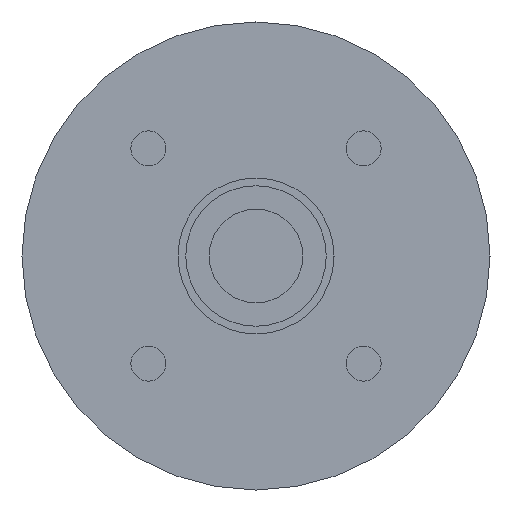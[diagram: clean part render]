
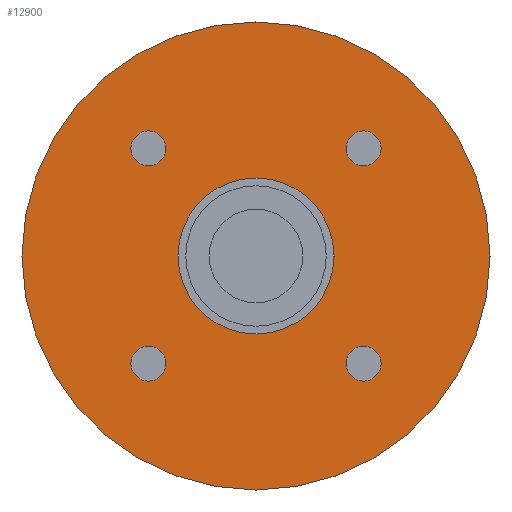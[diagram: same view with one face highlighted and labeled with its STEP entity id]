
A CAD part, left-side view. The second image highlights one B-rep face of the part: STEP entity #12900.
In plain terms, the highlighted planar face has unit normal (-1, 0, 0) as drawn and (0, 0, -1) by its records, which use the part's own axes.
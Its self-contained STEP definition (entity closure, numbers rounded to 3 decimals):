
#8680=CARTESIAN_POINT('',(-30.,0.,-35.));
#8690=VERTEX_POINT('',#8680);
#8910=CARTESIAN_POINT('',(30.,0.,-35.));
#8920=VERTEX_POINT('',#8910);
#8950=CARTESIAN_POINT('',(0.,0.,-35.
));
#8960=DIRECTION('',(0.,0.,1.));
#8970=DIRECTION('',(1.,0.,0.));
#8980=AXIS2_PLACEMENT_3D('',#8950,#8960,#8970);
#8990=CIRCLE('',#8980,30.);
#9000=CARTESIAN_POINT('',(0.,-30.,-35.));
#9010=VERTEX_POINT('',#9000);
#9020=EDGE_CURVE('',#9010,#8920,#8990,.T.);
#9040=EDGE_CURVE('',#8690,#9010,#8990,.T.);
#9200=CARTESIAN_POINT('',(0.,10.,-35.));
#9210=VERTEX_POINT('',#9200);
#9240=CARTESIAN_POINT('',(0.,0.,
-35.));
#9250=DIRECTION('',(0.,0.,1.));
#9260=DIRECTION('',(0.,1.,0.));
#9270=AXIS2_PLACEMENT_3D('',#9240,#9250,#9260);
#9280=CIRCLE('',#9270,10.);
#9290=CARTESIAN_POINT('',(0.,-10.,-35.));
#9300=VERTEX_POINT('',#9290);
#9310=EDGE_CURVE('',#9210,#9300,#9280,.T.);
#12010=CARTESIAN_POINT('',(-11.539,13.789,-35.));
#12020=VERTEX_POINT('',#12010);
#12050=CARTESIAN_POINT('',(-13.789,13.789,-35.));
#12060=DIRECTION('',(0.,0.,-1.));
#12070=DIRECTION('',(-1.,0.,0.));
#12080=AXIS2_PLACEMENT_3D('',#12050,#12060,#12070);
#12090=CIRCLE('',#12080,2.25);
#12100=CARTESIAN_POINT('',(-16.039,13.789,-35.));
#12110=VERTEX_POINT('',#12100);
#12120=EDGE_CURVE('',#12110,#12020,#12090,.T.);
#12240=CARTESIAN_POINT('',(0.,0.,
-35.));
#12250=DIRECTION('',(0.,0.,-1.));
#12260=DIRECTION('',(1.,0.,0.));
#12270=AXIS2_PLACEMENT_3D('',#12240,#12250,#12260);
#12280=PLANE('',#12270);
#12290=CARTESIAN_POINT('',(13.789,13.789,-35.));
#12300=DIRECTION('',(0.,0.,-1.));
#12310=DIRECTION('',(0.,1.,0.));
#12320=AXIS2_PLACEMENT_3D('',#12290,#12300,#12310);
#12330=CIRCLE('',#12320,2.25);
#12340=CARTESIAN_POINT('',(13.789,16.039,-35.));
#12350=VERTEX_POINT('',#12340);
#12360=CARTESIAN_POINT('',(13.789,11.539,-35.));
#12370=VERTEX_POINT('',#12360);
#12380=EDGE_CURVE('',#12350,#12370,#12330,.T.);
#12390=ORIENTED_EDGE('',*,*,#12380,.F.);
#12400=EDGE_CURVE('',#12370,#12350,#12330,.T.);
#12410=ORIENTED_EDGE('',*,*,#12400,.F.);
#12420=EDGE_LOOP('',(#12410,#12390));
#12430=FACE_BOUND('',#12420,.T.);
#12440=ORIENTED_EDGE('',*,*,#12120,.F.);
#12450=EDGE_CURVE('',#12020,#12110,#12090,.T.);
#12460=ORIENTED_EDGE('',*,*,#12450,.F.);
#12470=EDGE_LOOP('',(#12460,#12440));
#12480=FACE_BOUND('',#12470,.T.);
#12490=CARTESIAN_POINT('',(-13.789,-13.789,-35.));
#12500=DIRECTION('',(0.,0.,-1.));
#12510=DIRECTION('',(0.,-1.,0.));
#12520=AXIS2_PLACEMENT_3D('',#12490,#12500,#12510);
#12530=CIRCLE('',#12520,2.25);
#12540=CARTESIAN_POINT('',(-13.789,-16.039,-35.));
#12550=VERTEX_POINT('',#12540);
#12560=CARTESIAN_POINT('',(-13.789,-11.539,-35.));
#12570=VERTEX_POINT('',#12560);
#12580=EDGE_CURVE('',#12550,#12570,#12530,.T.);
#12590=ORIENTED_EDGE('',*,*,#12580,.F.);
#12600=EDGE_CURVE('',#12570,#12550,#12530,.T.);
#12610=ORIENTED_EDGE('',*,*,#12600,.F.);
#12620=EDGE_LOOP('',(#12610,#12590));
#12630=FACE_BOUND('',#12620,.T.);
#12640=ORIENTED_EDGE('',*,*,#9310,.T.);
#12650=EDGE_CURVE('',#9300,#9210,#9280,.T.);
#12660=ORIENTED_EDGE('',*,*,#12650,.T.);
#12670=EDGE_LOOP('',(#12660,#12640));
#12680=FACE_BOUND('',#12670,.T.);
#12690=CARTESIAN_POINT('',(13.789,-13.789,-35.));
#12700=DIRECTION('',(0.,0.,-1.));
#12710=DIRECTION('',(1.,0.,0.));
#12720=AXIS2_PLACEMENT_3D('',#12690,#12700,#12710);
#12730=CIRCLE('',#12720,2.25);
#12740=CARTESIAN_POINT('',(16.039,-13.789,-35.));
#12750=VERTEX_POINT('',#12740);
#12760=CARTESIAN_POINT('',(11.539,-13.789,-35.));
#12770=VERTEX_POINT('',#12760);
#12780=EDGE_CURVE('',#12750,#12770,#12730,.T.);
#12790=ORIENTED_EDGE('',*,*,#12780,.F.);
#12800=EDGE_CURVE('',#12770,#12750,#12730,.T.);
#12810=ORIENTED_EDGE('',*,*,#12800,.F.);
#12820=EDGE_LOOP('',(#12810,#12790));
#12830=FACE_BOUND('',#12820,.T.);
#12840=ORIENTED_EDGE('',*,*,#9020,.F.);
#12850=EDGE_CURVE('',#8920,#8690,#8990,.T.);
#12860=ORIENTED_EDGE('',*,*,#12850,.F.);
#12870=ORIENTED_EDGE('',*,*,#9040,.F.);
#12880=EDGE_LOOP('',(#12870,#12860,#12840));
#12890=FACE_OUTER_BOUND('',#12880,.T.);
#12900=ADVANCED_FACE('',(#12430,#12480,#12630,#12680,#12830,#12890),
#12280,.T.);
